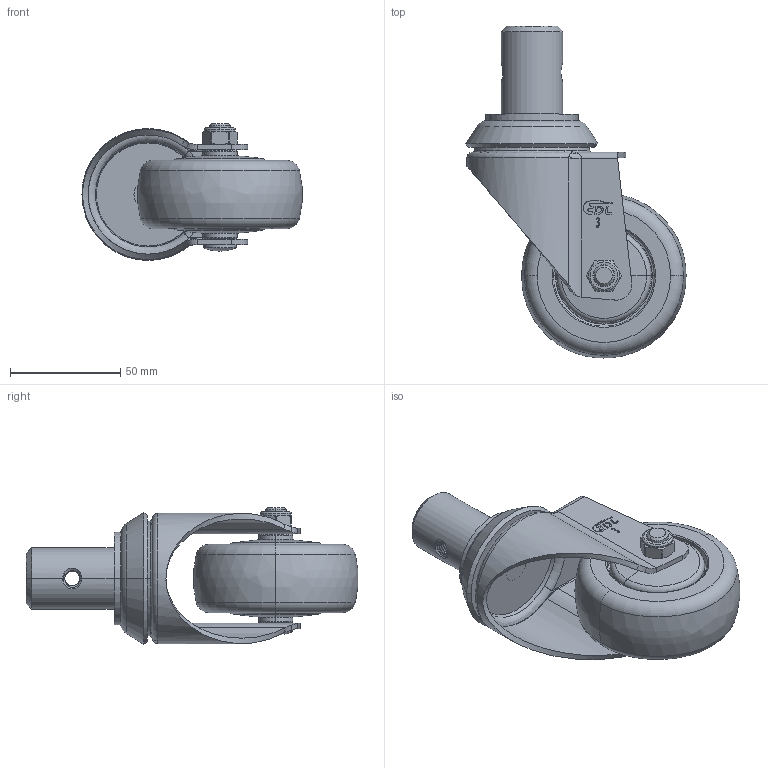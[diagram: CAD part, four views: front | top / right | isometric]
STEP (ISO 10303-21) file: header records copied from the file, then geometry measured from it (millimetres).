
FILE_DESCRIPTION((''),'2;1');
FILE_NAME('57253-573-77_ASM','2021-01-05T',('lenovo'),(''),'PRO/ENGINEER BY PARAMETRIC TECHNOLOGY CORPORATION, 2010280','PRO/ENGINEER BY PARAMETRIC TECHNOLOGY CORPORATION, 2010280','');
FILE_SCHEMA(('CONFIG_CONTROL_DESIGN'));
Length unit declared in the file: millimetre
Products named in the file (7): 5710-055; 5723-311; 5720-211; 573-77; 5710-020; 5710-031; 57253-573-77_ASM
Assembly tree (6 placements, depth 2):
  57253-573-77_ASM
    5710-055
    5723-311
    5720-211
    573-77
    5710-020
    5710-031
Bounding box: 100.05 x 150.85 x 62.25 mm (x, y, z)
Volume: 211036.4 mm3; surface area: 56245.2 mm2
Topology: 6 solids, 6 shells, 361 faces, 915 edges, 574 vertices
Faces by surface type: plane 132, cylinder 94, bspline 67, torus 32, cone 30, sphere 6
Entity records: 18135 total; most frequent: CARTESIAN_POINT 9789, ORIENTED_EDGE 1826, DIRECTION 1526, EDGE_CURVE 913, VERTEX_POINT 574, AXIS2_PLACEMENT_3D 540, VECTOR 446, LINE 446
